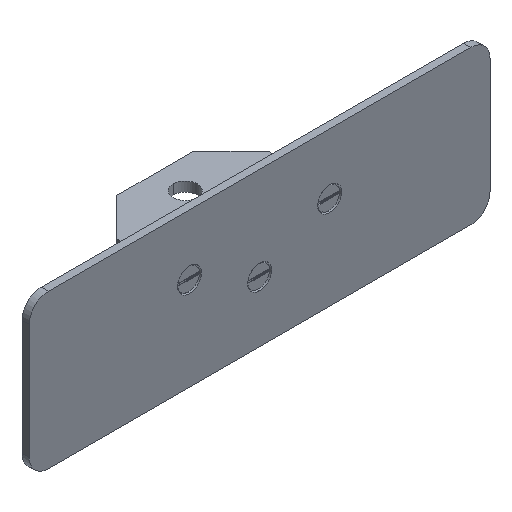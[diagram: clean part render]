
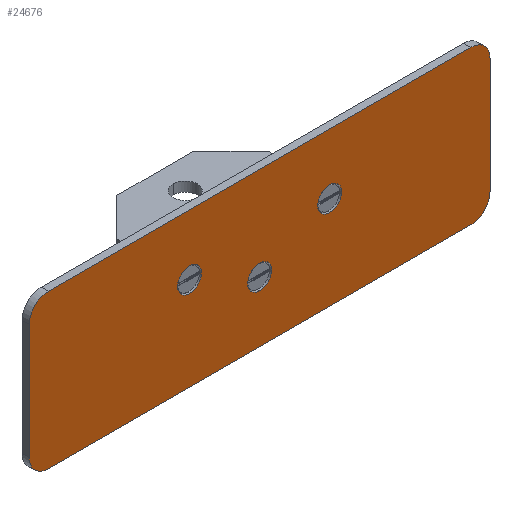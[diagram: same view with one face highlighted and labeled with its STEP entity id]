
A CAD part, isometric view. The second image highlights one B-rep face of the part: STEP entity #24676.
In plain terms, the highlighted planar face has unit normal (0, -1, 0).
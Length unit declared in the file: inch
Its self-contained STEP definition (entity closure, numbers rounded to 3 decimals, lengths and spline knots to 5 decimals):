
#225 = LINE ( 'NONE', #27985, #29035 ) ;
#268 = VERTEX_POINT ( 'NONE', #29143 ) ;
#405 = VERTEX_POINT ( 'NONE', #27936 ) ;
#727 = DIRECTION ( 'NONE',  ( 0., -1., 0. ) ) ;
#883 = CARTESIAN_POINT ( 'NONE',  ( -1.825, 0., 0.7375 ) ) ;
#957 = FACE_BOUND ( 'NONE', #12140, .T. ) ;
#1151 = ORIENTED_EDGE ( 'NONE', *, *, #27475, .F. ) ;
#1327 = DIRECTION ( 'NONE',  ( 0., -1., 0. ) ) ;
#1409 = FACE_BOUND ( 'NONE', #24366, .T. ) ;
#1659 = DIRECTION ( 'NONE',  ( 0., 0., -1. ) ) ;
#1681 = ORIENTED_EDGE ( 'NONE', *, *, #13161, .T. ) ;
#1854 = CARTESIAN_POINT ( 'NONE',  ( 1.825, 0., 0.425 ) ) ;
#2322 = DIRECTION ( 'NONE',  ( 0., 0., 1. ) ) ;
#2444 = AXIS2_PLACEMENT_3D ( 'NONE', #9127, #17712, #29643 ) ;
#2542 = ORIENTED_EDGE ( 'NONE', *, *, #5447, .F. ) ;
#2846 = CARTESIAN_POINT ( 'NONE',  ( 0., 0., -0.425 ) ) ;
#3217 = DIRECTION ( 'NONE',  ( 0., -1., 0. ) ) ;
#3398 = VERTEX_POINT ( 'NONE', #21144 ) ;
#3516 = DIRECTION ( 'NONE',  ( -1., 0., 0. ) ) ;
#3765 = DIRECTION ( 'NONE',  ( 0., 1., 0. ) ) ;
#3918 = VECTOR ( 'NONE', #17909, 39.37008 ) ;
#3965 = VERTEX_POINT ( 'NONE', #25887 ) ;
#4437 = CARTESIAN_POINT ( 'NONE',  ( -1.825, 0., 0.425 ) ) ;
#4469 = ORIENTED_EDGE ( 'NONE', *, *, #22255, .F. ) ;
#4602 = EDGE_LOOP ( 'NONE', ( #18776, #1681, #12790, #4647, #7400, #8977, #6977, #2542 ) ) ;
#4647 = ORIENTED_EDGE ( 'NONE', *, *, #24581, .T. ) ;
#5135 = CIRCLE ( 'NONE', #7042, 0.3125 ) ;
#5345 = AXIS2_PLACEMENT_3D ( 'NONE', #27378, #22398, #13188 ) ;
#5347 = VERTEX_POINT ( 'NONE', #883 ) ;
#5447 = EDGE_CURVE ( 'NONE', #17719, #11502, #225, .T. ) ;
#5634 = CIRCLE ( 'NONE', #28768, 0.5 ) ;
#5685 = CARTESIAN_POINT ( 'NONE',  ( 5.5, 0., 1.5 ) ) ;
#6171 = CARTESIAN_POINT ( 'NONE',  ( -5.5, 0., -1.5 ) ) ;
#6189 = EDGE_CURVE ( 'NONE', #3965, #9480, #5135, .T. ) ;
#6394 = AXIS2_PLACEMENT_3D ( 'NONE', #10600, #3217, #28855 ) ;
#6977 = ORIENTED_EDGE ( 'NONE', *, *, #23462, .F. ) ;
#7042 = AXIS2_PLACEMENT_3D ( 'NONE', #1854, #15266, #29300 ) ;
#7060 = DIRECTION ( 'NONE',  ( 0., 0., 1. ) ) ;
#7138 = DIRECTION ( 'NONE',  ( 0., -1., 0. ) ) ;
#7400 = ORIENTED_EDGE ( 'NONE', *, *, #14153, .T. ) ;
#7413 = CARTESIAN_POINT ( 'NONE',  ( 1.825, 0., 0.1125 ) ) ;
#8066 = CARTESIAN_POINT ( 'NONE',  ( 6., 0., -1.5 ) ) ;
#8180 = VERTEX_POINT ( 'NONE', #14552 ) ;
#8254 = DIRECTION ( 'NONE',  ( 0., 0., 1. ) ) ;
#8302 = EDGE_CURVE ( 'NONE', #405, #10190, #5634, .T. ) ;
#8977 = ORIENTED_EDGE ( 'NONE', *, *, #29423, .F. ) ;
#9125 = VERTEX_POINT ( 'NONE', #22382 ) ;
#9127 = CARTESIAN_POINT ( 'NONE',  ( 5.5, 0., -1.5 ) ) ;
#9480 = VERTEX_POINT ( 'NONE', #7413 ) ;
#10190 = VERTEX_POINT ( 'NONE', #12041 ) ;
#10227 = CIRCLE ( 'NONE', #12621, 0.5 ) ;
#10228 = CARTESIAN_POINT ( 'NONE',  ( -5.5, 0., 1.5 ) ) ;
#10310 = LINE ( 'NONE', #26427, #10717 ) ;
#10338 = LINE ( 'NONE', #8066, #28856 ) ;
#10600 = CARTESIAN_POINT ( 'NONE',  ( 5.5, 0., -1.5 ) ) ;
#10699 = AXIS2_PLACEMENT_3D ( 'NONE', #4437, #7138, #2322 ) ;
#10717 = VECTOR ( 'NONE', #3516, 39.37008 ) ;
#10780 = AXIS2_PLACEMENT_3D ( 'NONE', #25992, #19057, #28275 ) ;
#11502 = VERTEX_POINT ( 'NONE', #27813 ) ;
#12041 = CARTESIAN_POINT ( 'NONE',  ( 5.5, 0., 2. ) ) ;
#12140 = EDGE_LOOP ( 'NONE', ( #26334, #18152 ) ) ;
#12555 = FACE_OUTER_BOUND ( 'NONE', #4602, .T. ) ;
#12621 = AXIS2_PLACEMENT_3D ( 'NONE', #6171, #3765, #1659 ) ;
#12700 = PLANE ( 'NONE',  #6394 ) ;
#12790 = ORIENTED_EDGE ( 'NONE', *, *, #8302, .T. ) ;
#12946 = CIRCLE ( 'NONE', #29832, 0.5 ) ;
#13161 = EDGE_CURVE ( 'NONE', #3398, #405, #10338, .T. ) ;
#13177 = CIRCLE ( 'NONE', #10780, 0.3125 ) ;
#13188 = DIRECTION ( 'NONE',  ( 0., 0., 1. ) ) ;
#13741 = CARTESIAN_POINT ( 'NONE',  ( 0., 0., -0.1125 ) ) ;
#13944 = VERTEX_POINT ( 'NONE', #25772 ) ;
#14153 = EDGE_CURVE ( 'NONE', #8180, #17027, #12946, .T. ) ;
#14552 = CARTESIAN_POINT ( 'NONE',  ( -5.5, 0., 2. ) ) ;
#15266 = DIRECTION ( 'NONE',  ( 0., -1., 0. ) ) ;
#15428 = CIRCLE ( 'NONE', #28426, 0.3125 ) ;
#15950 = LINE ( 'NONE', #20021, #3918 ) ;
#16471 = CIRCLE ( 'NONE', #26081, 0.3125 ) ;
#17027 = VERTEX_POINT ( 'NONE', #19751 ) ;
#17258 = DIRECTION ( 'NONE',  ( 0., 0., 1. ) ) ;
#17348 = EDGE_CURVE ( 'NONE', #9480, #3965, #15428, .T. ) ;
#17712 = DIRECTION ( 'NONE',  ( 0., -1., 0. ) ) ;
#17719 = VERTEX_POINT ( 'NONE', #19937 ) ;
#17909 = DIRECTION ( 'NONE',  ( 0., 0., 1. ) ) ;
#18130 = ORIENTED_EDGE ( 'NONE', *, *, #17348, .F. ) ;
#18152 = ORIENTED_EDGE ( 'NONE', *, *, #18969, .F. ) ;
#18776 = ORIENTED_EDGE ( 'NONE', *, *, #19025, .T. ) ;
#18908 = DIRECTION ( 'NONE',  ( -1., 0., 0. ) ) ;
#18969 = EDGE_CURVE ( 'NONE', #268, #26873, #26522, .T. ) ;
#19025 = EDGE_CURVE ( 'NONE', #17719, #3398, #19304, .T. ) ;
#19057 = DIRECTION ( 'NONE',  ( 0., -1., 0. ) ) ;
#19304 = CIRCLE ( 'NONE', #2444, 0.5 ) ;
#19410 = DIRECTION ( 'NONE',  ( 0., 0., 1. ) ) ;
#19751 = CARTESIAN_POINT ( 'NONE',  ( -6., 0., 1.5 ) ) ;
#19937 = CARTESIAN_POINT ( 'NONE',  ( 5.5, 0., -2. ) ) ;
#20007 = DIRECTION ( 'NONE',  ( 0., -1., 0. ) ) ;
#20021 = CARTESIAN_POINT ( 'NONE',  ( -6., 0., -1.5 ) ) ;
#20613 = CARTESIAN_POINT ( 'NONE',  ( 1.825, 0., 0.425 ) ) ;
#21144 = CARTESIAN_POINT ( 'NONE',  ( 6., 0., -1.5 ) ) ;
#21823 = EDGE_CURVE ( 'NONE', #26873, #268, #16471, .T. ) ;
#21831 = DIRECTION ( 'NONE',  ( 0., -1., 0. ) ) ;
#22255 = EDGE_CURVE ( 'NONE', #5347, #13944, #27568, .T. ) ;
#22382 = CARTESIAN_POINT ( 'NONE',  ( -6., 0., -1.5 ) ) ;
#22398 = DIRECTION ( 'NONE',  ( 0., -1., 0. ) ) ;
#22729 = DIRECTION ( 'NONE',  ( 0., 0., 1. ) ) ;
#23402 = ORIENTED_EDGE ( 'NONE', *, *, #6189, .F. ) ;
#23462 = EDGE_CURVE ( 'NONE', #11502, #9125, #10227, .T. ) ;
#23881 = FACE_BOUND ( 'NONE', #24962, .T. ) ;
#24366 = EDGE_LOOP ( 'NONE', ( #4469, #1151 ) ) ;
#24581 = EDGE_CURVE ( 'NONE', #10190, #8180, #10310, .T. ) ;
#24676 = ADVANCED_FACE ( 'NONE', ( #23881, #957, #1409, #12555 ), #12700, .T. ) ;
#24962 = EDGE_LOOP ( 'NONE', ( #23402, #18130 ) ) ;
#25772 = CARTESIAN_POINT ( 'NONE',  ( -1.825, 0., 0.1125 ) ) ;
#25887 = CARTESIAN_POINT ( 'NONE',  ( 1.825, 0., 0.7375 ) ) ;
#25992 = CARTESIAN_POINT ( 'NONE',  ( -1.825, 0., 0.425 ) ) ;
#26081 = AXIS2_PLACEMENT_3D ( 'NONE', #2846, #727, #7060 ) ;
#26334 = ORIENTED_EDGE ( 'NONE', *, *, #21823, .F. ) ;
#26427 = CARTESIAN_POINT ( 'NONE',  ( 5.5, 0., 2. ) ) ;
#26522 = CIRCLE ( 'NONE', #5345, 0.3125 ) ;
#26873 = VERTEX_POINT ( 'NONE', #13741 ) ;
#27378 = CARTESIAN_POINT ( 'NONE',  ( 0., 0., -0.425 ) ) ;
#27475 = EDGE_CURVE ( 'NONE', #13944, #5347, #13177, .T. ) ;
#27568 = CIRCLE ( 'NONE', #10699, 0.3125 ) ;
#27813 = CARTESIAN_POINT ( 'NONE',  ( -5.5, 0., -2. ) ) ;
#27936 = CARTESIAN_POINT ( 'NONE',  ( 6., 0., 1.5 ) ) ;
#27985 = CARTESIAN_POINT ( 'NONE',  ( 5.5, 0., -2. ) ) ;
#28275 = DIRECTION ( 'NONE',  ( 0., 0., 1. ) ) ;
#28426 = AXIS2_PLACEMENT_3D ( 'NONE', #20613, #20007, #22729 ) ;
#28768 = AXIS2_PLACEMENT_3D ( 'NONE', #5685, #21831, #8254 ) ;
#28855 = DIRECTION ( 'NONE',  ( 0., 0., 1. ) ) ;
#28856 = VECTOR ( 'NONE', #17258, 39.37008 ) ;
#29035 = VECTOR ( 'NONE', #18908, 39.37008 ) ;
#29143 = CARTESIAN_POINT ( 'NONE',  ( 0., 0., -0.7375 ) ) ;
#29300 = DIRECTION ( 'NONE',  ( 0., 0., 1. ) ) ;
#29423 = EDGE_CURVE ( 'NONE', #9125, #17027, #15950, .T. ) ;
#29643 = DIRECTION ( 'NONE',  ( 0., 0., 1. ) ) ;
#29832 = AXIS2_PLACEMENT_3D ( 'NONE', #10228, #1327, #19410 ) ;
